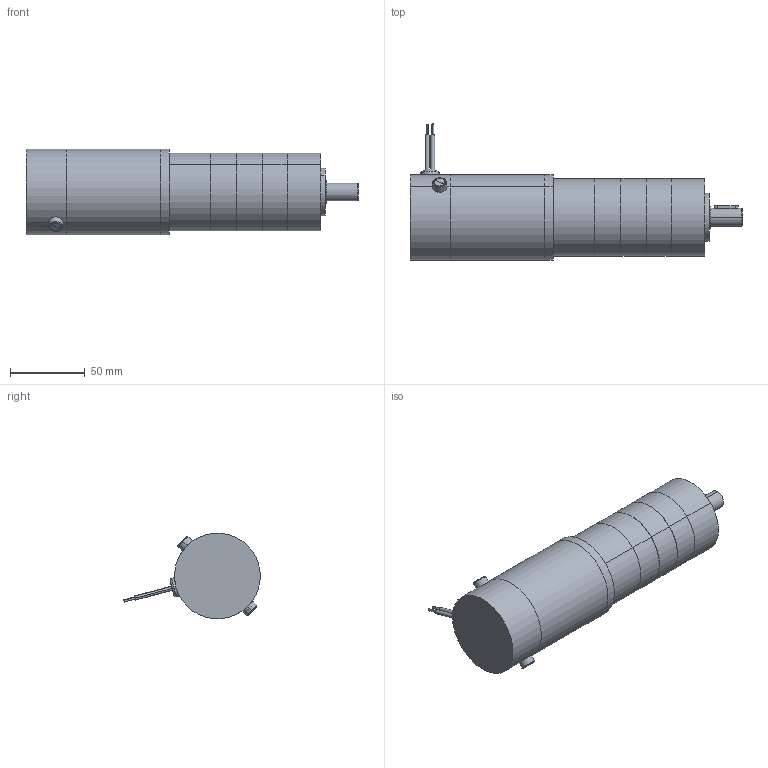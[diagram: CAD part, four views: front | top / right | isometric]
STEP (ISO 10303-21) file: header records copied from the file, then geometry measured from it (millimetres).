
FILE_DESCRIPTION (( 'STEP AP203' ), '1' );
FILE_NAME ('d22376gp3.step', '2018-12-07T19:15:40', ( '' ), ( '' ), 'SwSTEP 2.0', 'SolidWorks 2017', '' );
FILE_SCHEMA (( 'CONFIG_CONTROL_DESIGN' ));
Length unit declared in the file: inch
Products named in the file (1): d22376gp3
Bounding box: 221.35 x 90.76 x 56.93 mm (x, y, z)
Volume: 460709.2 mm3; surface area: 79214.4 mm2
Topology: 17 solids, 17 shells, 336 faces, 713 edges, 440 vertices
Faces by surface type: cylinder 140, plane 133, cone 53, torus 6, sphere 4
Entity records: 9291 total; most frequent: CARTESIAN_POINT 1734, DIRECTION 1716, ORIENTED_EDGE 1394, EDGE_CURVE 697, AXIS2_PLACEMENT_3D 692, VERTEX_POINT 440, EDGE_LOOP 401, CIRCLE 355
